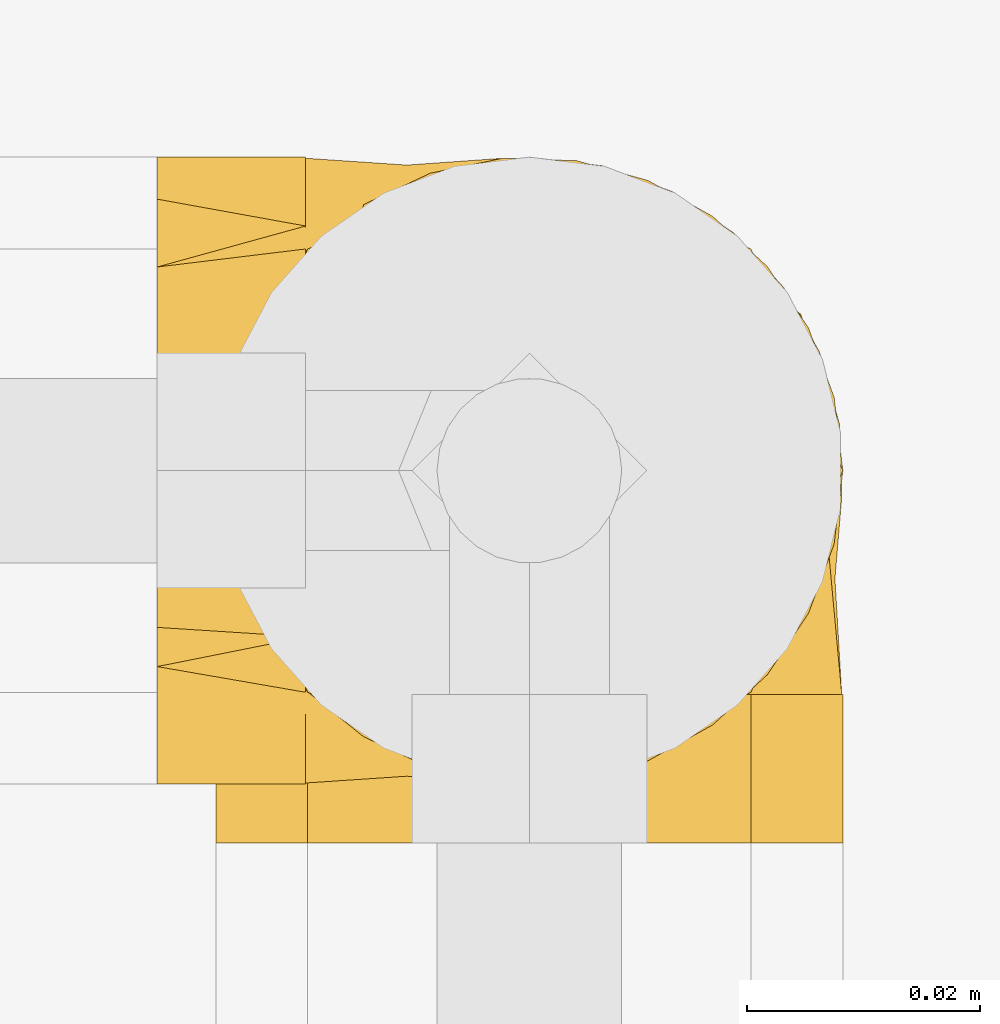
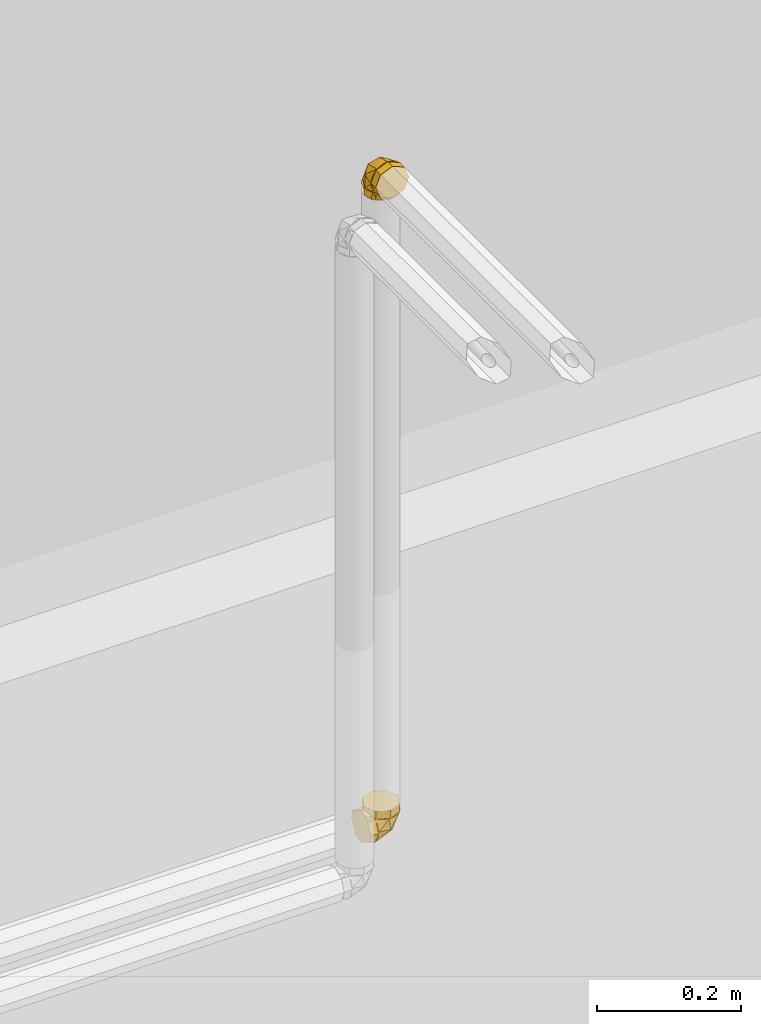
# One storey, part 304 of 652: 2 coverings.
"""IFC2X3 building model written with IfcOpenShell, lengths in millimetres."""

from ifc_helpers import new_model, entity, si_unit, converted_unit, direction, frame, origin, place, context, subcontext, project, spatial, face_set, surface_model, material, type_object, element, save


model = new_model("IFC2X3")

# Units and contexts
model_context = context("Model", 3, precision=0.01, world=frame((0.0, 0.0, 308426.39999999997)), true_north=direction((6.123233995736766e-17, 1.0)))
plan_context = context("Plan", 3, precision=0.01, world=frame((0.0, 0.0, 308426.39999999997)), true_north=direction((6.123233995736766e-17, 1.0)))
body_context = subcontext(model_context, "Body", "Model", "MODEL_VIEW")
ifc_project = project(units=[si_unit("LENGTHUNIT", "METRE", prefix="MILLI"), si_unit("AREAUNIT", "SQUARE_METRE"), si_unit("VOLUMEUNIT", "CUBIC_METRE"), converted_unit("PLANEANGLEUNIT", "DEGREE", entity("IfcPlaneAngleMeasure", 0.017453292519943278), si_unit("PLANEANGLEUNIT", "RADIAN"), dimensions=[0, 0, 0, 0, 0, 0, 0])], contexts=[model_context, plan_context])

# Site, building, storey
site_placement = place(None, origin())
site = spatial("IfcSite", under=ifc_project, at=site_placement, Name="Default", CompositionType="ELEMENT")
building_placement = place(site_placement, origin())
building = spatial("IfcBuilding", under=site, at=building_placement, CompositionType="ELEMENT")
storey_placement = place(building_placement, frame((0.0, 0.0, 1730.6999999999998)))
storey = spatial("IfcBuildingStorey", under=building, at=storey_placement, Name="EG_Produktion_FFB", CompositionType="ELEMENT", Elevation=1730.6999999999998)

# Coverings
ifc_material = material(Name="Dämmung - Armaflex-Schlauch")
covering_type = type_object("IfcCoveringType", Name="Rohrdämmung außen:Armaflex-Schlauch", PredefinedType="INSULATION")
covering_1_placement = place(storey_placement, frame((24486.07571004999, 50390.05280774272, 3828.5327722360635)))
element("IfcCovering", 1, at=covering_1_placement, inside=storey, type_object=covering_type, material=ifc_material, Name="Rohrdämmung außen:Armaflex-Schlauch", ObjectType="Rohrdämmung außen:Armaflex-Schlauch", PredefinedType="INSULATION", context=body_context, shape_type="SurfaceModel", body=[
    surface_model("IfcFaceBasedSurfaceModel", [(47.40912251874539, 12.766250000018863, -47.75027223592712), (51.38658262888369, 12.766250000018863, -42.79223424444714), (54.0915642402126, 12.766250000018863, -37.040242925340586), (55.37345654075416, 12.766250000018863, -30.814563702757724), (55.16088498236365, 12.766250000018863, -24.461836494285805), (53.46568534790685, 12.766250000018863, -18.335775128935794), (50.38224474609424, 12.766250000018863, -12.77747289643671), (46.08224622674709, 12.766250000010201, -8.096410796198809), (40.80510963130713, 12.766250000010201, -4.553225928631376), (34.84466092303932, 12.766250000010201, -2.3451994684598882), (28.532772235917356, 12.766250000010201, -1.595272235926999), (22.220883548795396, 12.766250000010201, -2.3451994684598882), (16.26043484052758, 12.766250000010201, -4.553225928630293), (10.983298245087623, 12.766250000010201, -8.096410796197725), (6.683299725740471, 12.766250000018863, -12.77747289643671), (3.5998591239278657, 12.766250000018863, -18.33577512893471), (1.9046594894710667, 12.766250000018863, -24.461836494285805), (1.6920879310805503, 12.766250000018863, -30.814563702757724), (2.973980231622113, 12.766250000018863, -37.040242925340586), (5.678961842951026, 12.766250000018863, -42.79223424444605), (9.65642195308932, 12.766250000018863, -47.75027223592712), (5.678961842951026, 17.72428799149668, -47.75027223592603), (2.973980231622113, 23.47627931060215, -47.75027223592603), (1.6920879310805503, 29.70195853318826, -47.75027223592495), (1.9046594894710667, 36.05468574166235, -47.75027223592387), (3.5998591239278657, 42.18074710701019, -47.75027223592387), (6.683299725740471, 47.73904933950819, -47.750272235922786), (10.983298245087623, 52.42011143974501, -47.750272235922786), (16.26043484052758, 55.96329630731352, -47.750272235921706), (22.220883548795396, 58.17132276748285, -47.750272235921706), (28.532772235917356, 58.921250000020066, -47.750272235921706), (34.84466092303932, 58.17132276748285, -47.750272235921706), (40.80510963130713, 55.96329630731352, -47.750272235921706), (46.08224622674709, 52.42011143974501, -47.750272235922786), (50.38224474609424, 47.73904933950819, -47.750272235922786), (53.46568534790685, 42.18074710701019, -47.75027223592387), (55.16088498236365, 36.05468574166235, -47.75027223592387), (55.37345654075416, 29.70195853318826, -47.75027223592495), (54.0915642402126, 23.47627931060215, -47.75027223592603), (51.38658262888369, 17.72428799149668, -47.75027223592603), (54.7891337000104, 22.707263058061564, -39.069716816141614), (28.53259683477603, 35.845995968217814, -7.778603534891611), (50.728916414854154, 12.768334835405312, -19.45521638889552), (53.465958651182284, 33.567065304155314, -26.951270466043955), (42.78056436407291, 43.18508288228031, -18.67503145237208), (28.53259683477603, 48.37546374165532, -29.486580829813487), (50.728916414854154, 41.05963122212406, -47.75000093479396), (14.284629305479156, 43.18508288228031, -18.67503145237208), (3.5992350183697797, 33.567065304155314, -26.951270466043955), (2.2760599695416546, 22.707263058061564, -39.069716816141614), (6.33860269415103, 41.05963122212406, -47.75000093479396), (6.33860269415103, 12.768334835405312, -19.45521638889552), (28.532772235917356, 0.0, -1.5952722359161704), (23.770850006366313, 0.0, -3.567725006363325), (19.008927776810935, 0.0, -5.540177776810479), (14.24700554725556, 0.0, -7.51263054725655), (9.485083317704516, 0.0, -9.485083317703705), (7.512630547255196, 0.0, -14.247005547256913), (5.540177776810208, 0.0, -19.008927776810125), (3.5677250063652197, 0.0, -23.770850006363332), (1.5952722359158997, 0.0, -28.532772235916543), (3.5677250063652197, 0.0, -33.29469446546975), (5.540177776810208, 0.0, -38.05661669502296), (7.512630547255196, 0.0, -42.818538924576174), (9.485083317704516, 0.0, -47.58046115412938), (14.24700554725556, 0.0, -49.552913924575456), (19.008927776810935, 0.0, -51.52536669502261), (23.770850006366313, 0.0, -53.49781946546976), (28.532772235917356, 0.0, -55.470272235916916), (33.2946944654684, 0.0, -53.49781946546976), (38.05661669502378, 0.0, -51.52536669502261), (42.81853892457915, 0.0, -49.552913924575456), (47.5804611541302, 0.0, -47.58046115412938), (49.552913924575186, 0.0, -42.818538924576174), (51.5253666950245, 0.0, -38.05661669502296), (53.497819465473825, 0.0, -33.29469446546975), (55.47027223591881, 0.0, -28.532772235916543), (53.49781946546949, 0.0, -23.770850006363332), (51.5253666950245, 0.0, -19.008927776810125), (49.552913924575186, 0.0, -14.247005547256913), (47.5804611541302, 0.0, -9.485083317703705), (42.81853892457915, 0.0, -7.51263054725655), (38.05661669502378, 0.0, -5.540177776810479), (33.29469446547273, 0.0, -3.567725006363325), (28.532772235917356, 12.766250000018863, -1.5952722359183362), (33.2946944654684, 12.766250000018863, -3.567725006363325), (38.05661669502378, 12.766250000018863, -5.540177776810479), (42.81853892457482, 12.766250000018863, -7.512630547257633), (47.5804611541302, 12.766250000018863, -9.48508331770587), (49.96980627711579, 12.766250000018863, -15.25347271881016), (52.359151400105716, 12.766250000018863, -21.021862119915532), (55.47027223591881, 12.766250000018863, -28.53277223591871), (53.49781946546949, 12.766250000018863, -33.29469446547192), (51.5253666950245, 12.766250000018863, -38.05661669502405), (49.552913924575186, 12.766250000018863, -42.818538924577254), (47.5804611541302, 12.766250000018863, -47.58046115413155), (41.81207175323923, 12.766250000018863, -49.96980627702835), (36.04368235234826, 12.766250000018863, -52.35915139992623), (28.532772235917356, 12.766250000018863, -55.47027223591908), (23.770850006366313, 12.766250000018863, -53.49781946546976), (19.008927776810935, 12.766250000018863, -51.52536669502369), (14.247005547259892, 12.766250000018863, -49.552913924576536), (9.485083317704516, 12.766250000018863, -47.58046115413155), (7.095738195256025, 12.766250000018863, -41.81207175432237), (4.706393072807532, 12.766250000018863, -36.04368235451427), (1.5952722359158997, 12.766250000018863, -28.53277223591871), (3.5677250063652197, 12.766250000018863, -23.7708500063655), (5.540177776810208, 12.766250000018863, -19.008927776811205), (7.512630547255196, 12.766250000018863, -14.247005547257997), (9.485083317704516, 12.766250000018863, -9.48508331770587), (15.253472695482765, 12.766250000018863, -7.095738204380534), (21.021862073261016, 12.766250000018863, -4.7063930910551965), (28.532772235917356, 58.92125000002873, -60.51652223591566), (34.36491206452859, 55.55406250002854, -60.51652223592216), (40.197051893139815, 52.186875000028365, -60.51652223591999), (46.02919172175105, 48.81968750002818, -60.516522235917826), (51.86133155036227, 45.452500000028, -60.51652223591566), (53.66580189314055, 38.718125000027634, -60.51652223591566), (55.47027223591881, 31.98375000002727, -60.51652223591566), (52.10308473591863, 26.151610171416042, -60.51652223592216), (48.73589723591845, 20.319470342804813, -60.51652223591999), (45.368709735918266, 14.487330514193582, -60.516522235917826), (42.00152223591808, 8.655190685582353, -60.51652223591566), (35.26714723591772, 6.850720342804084, -60.51652223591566), (28.532772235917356, 5.046250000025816, -60.51652223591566), (22.700632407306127, 8.413437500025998, -60.51652223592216), (16.868492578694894, 11.78062500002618, -60.51652223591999), (11.036352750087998, 15.147812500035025, -60.516522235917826), (5.204212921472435, 18.515000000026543, -60.51652223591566), (3.3997425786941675, 25.24937500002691, -60.51652223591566), (1.5952722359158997, 31.98375000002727, -60.51652223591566), (4.962459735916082, 37.815889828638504, -60.51652223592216), (8.329647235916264, 43.64802965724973, -60.51652223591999), (11.696834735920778, 49.48016948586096, -60.516522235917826), (15.064022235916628, 55.312309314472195, -60.51652223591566), (21.79839723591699, 57.11677965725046, -60.51652223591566), (28.532772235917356, 58.92125000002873, -47.75027223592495), (23.770850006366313, 56.94879722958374, -47.75027223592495), (19.008927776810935, 54.97634445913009, -47.75027223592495), (14.24700554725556, 53.0038916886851, -47.75027223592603), (9.485083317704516, 51.03143891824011, -47.75027223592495), (7.512630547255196, 46.26951668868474, -47.75027223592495), (5.540177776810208, 41.50759445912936, -47.75027223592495), (3.5677250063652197, 36.745672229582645, -47.75027223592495), (1.5952722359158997, 31.98375000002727, -47.75027223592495), (3.5677250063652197, 27.221827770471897, -47.75027223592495), (5.540177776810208, 22.459905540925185, -47.75027223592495), (7.512630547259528, 17.697983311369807, -47.75027223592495), (9.485083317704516, 12.936061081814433, -47.75027223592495), (14.24700554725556, 10.963608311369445, -47.75027223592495), (19.008927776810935, 8.991155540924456, -47.75027223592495), (23.770850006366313, 7.018702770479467, -47.75027223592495), (28.532772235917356, 5.046250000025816, -47.75027223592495), (33.2946944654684, 7.018702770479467, -47.75027223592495), (38.05661669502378, 8.991155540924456, -47.75027223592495), (42.81853892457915, 10.963608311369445, -47.75027223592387), (47.5804611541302, 12.936061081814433, -47.75027223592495), (49.552913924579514, 17.697983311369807, -47.75027223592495), (51.5253666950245, 22.459905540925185, -47.75027223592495), (53.49781946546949, 27.22182777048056, -47.75027223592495), (55.47027223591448, 31.98375000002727, -47.75027223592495), (53.49781946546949, 36.745672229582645, -47.75027223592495), (51.5253666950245, 41.50759445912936, -47.75027223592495), (49.552913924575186, 46.26951668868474, -47.75027223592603), (47.5804611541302, 51.03143891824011, -47.75027223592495), (42.81853892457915, 53.0038916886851, -47.75027223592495), (38.05661669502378, 54.97634445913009, -47.75027223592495), (33.2946944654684, 56.94879722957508, -47.75027223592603)], [face_set([[[0, 1, 2, 3, 4, 5, 6, 7, 8, 9, 10, 11, 12, 13, 14, 15, 16, 17, 18, 19]], [[20, 21, 22, 23, 24, 25, 26, 27, 28, 29, 30, 31, 32, 33, 34, 35, 36, 37, 38, 39]], [[0, 40, 3]], [[10, 7, 41]], [[42, 3, 43]], [[40, 43, 3]], [[37, 40, 0]], [[7, 43, 44]], [[45, 41, 44]], [[7, 44, 41]], [[33, 30, 45]], [[45, 44, 33]], [[43, 33, 44]], [[43, 37, 46]], [[43, 7, 42]], [[37, 43, 40]], [[46, 33, 43]], [[13, 10, 41]], [[27, 47, 45]], [[45, 30, 27]], [[48, 47, 27]], [[49, 48, 23]], [[48, 50, 23]], [[45, 47, 41]], [[20, 49, 23]], [[47, 48, 13]], [[17, 49, 20]], [[41, 47, 13]], [[48, 17, 51]], [[48, 27, 50]], [[17, 48, 49]], [[51, 13, 48]]]), face_set([[[52, 53, 54, 55, 56, 57, 58, 59, 60, 61, 62, 63, 64, 65, 66, 67, 68, 69, 70, 71, 72, 73, 74, 75, 76, 77, 78, 79, 80, 81, 82, 83]], [[84, 85, 86, 87, 88, 89, 90, 91, 92, 93, 94, 95, 96, 97, 98, 99, 100, 101, 102, 103, 104, 105, 106, 107, 108, 109, 110, 111]], [[111, 110, 109, 56, 55, 54, 53, 52, 84]], [[56, 109, 108, 107, 106, 105, 60, 59, 58, 57]], [[104, 103, 102, 64, 63, 62, 61, 60, 105]], [[64, 102, 101, 100, 99, 98, 68, 67, 66, 65]], [[97, 96, 95, 72, 71, 70, 69, 68, 98]], [[72, 95, 94, 93, 92, 91, 76, 75, 74, 73]], [[90, 89, 88, 80, 79, 78, 77, 76, 91]], [[80, 88, 87, 86, 85, 84, 52, 83, 82, 81]]]), face_set([[[112, 113, 114, 115, 116, 117, 118, 119, 120, 121, 122, 123, 124, 125, 126, 127, 128, 129, 130, 131, 132, 133, 134, 135]], [[136, 137, 138, 139, 140, 141, 142, 143, 144, 145, 146, 147, 148, 149, 150, 151, 152, 153, 154, 155, 156, 157, 158, 159, 160, 161, 162, 163, 164, 165, 166, 167]], [[155, 121, 156]], [[118, 159, 119]], [[159, 158, 119]], [[123, 154, 153]], [[153, 152, 124]], [[121, 155, 122]], [[120, 158, 157]], [[118, 160, 159]], [[158, 120, 119]], [[124, 123, 153]], [[157, 156, 121]], [[155, 154, 122]], [[123, 122, 154]], [[120, 157, 121]], [[163, 115, 164]], [[112, 167, 113]], [[167, 166, 113]], [[117, 162, 161]], [[161, 160, 118]], [[115, 163, 116]], [[114, 166, 165]], [[112, 136, 167]], [[166, 114, 113]], [[118, 117, 161]], [[165, 164, 115]], [[163, 162, 116]], [[117, 116, 162]], [[114, 165, 115]], [[139, 133, 140]], [[130, 143, 131]], [[143, 142, 131]], [[135, 138, 137]], [[137, 136, 112]], [[133, 139, 134]], [[132, 142, 141]], [[130, 144, 143]], [[142, 132, 131]], [[112, 135, 137]], [[141, 140, 133]], [[139, 138, 134]], [[135, 134, 138]], [[132, 141, 133]], [[147, 127, 148]], [[124, 151, 125]], [[151, 150, 125]], [[129, 146, 145]], [[145, 144, 130]], [[127, 147, 128]], [[126, 150, 149]], [[124, 152, 151]], [[150, 126, 125]], [[130, 129, 145]], [[149, 148, 127]], [[147, 146, 128]], [[129, 128, 146]], [[126, 149, 127]]])]),
])
covering_2_placement = place(storey_placement, frame((24482.6247322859, 50393.50378550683, 2671.4672277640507)))
element("IfcCovering", 2, at=covering_2_placement, inside=storey, type_object=covering_type, material=ifc_material, Name="Rohrdämmung außen:Armaflex-Schlauch", ObjectType="Rohrdämmung außen:Armaflex-Schlauch", PredefinedType="INSULATION", context=body_context, shape_type="SurfaceModel", body=[
    surface_model("IfcFaceBasedSurfaceModel", [(12.766249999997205, 9.65642195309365, 47.750272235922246), (17.724287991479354, 5.678961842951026, 47.750272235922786), (23.476279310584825, 2.973980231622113, 47.750272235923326), (29.701958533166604, 1.6920879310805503, 47.75027223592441), (36.05468574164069, 1.904659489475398, 47.75027223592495), (42.180747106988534, 3.599859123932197, 47.75027223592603), (47.739049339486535, 6.683299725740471, 47.75027223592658), (52.420111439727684, 10.983298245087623, 47.75027223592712), (55.96329630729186, 16.26043484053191, 47.75027223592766), (58.17132276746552, 22.220883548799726, 47.75027223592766), (58.92124999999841, 28.532772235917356, 47.75027223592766), (58.17132276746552, 34.844660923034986, 47.75027223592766), (55.96329630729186, 40.8051096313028, 47.75027223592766), (52.420111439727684, 46.08224622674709, 47.75027223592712), (47.739049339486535, 50.38224474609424, 47.75027223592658), (42.180747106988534, 53.465685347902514, 47.75027223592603), (36.05468574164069, 55.16088498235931, 47.75027223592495), (29.701958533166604, 55.37345654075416, 47.75027223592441), (23.476279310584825, 54.0915642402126, 47.750272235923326), (17.724287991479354, 51.38658262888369, 47.750272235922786), (12.766249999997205, 47.409122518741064, 47.750272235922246), (12.766249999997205, 51.38658262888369, 42.79223424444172), (12.766249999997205, 54.0915642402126, 37.04024292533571), (12.766249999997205, 55.37345654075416, 30.81456370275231), (12.766250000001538, 55.16088498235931, 24.46183649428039), (12.766250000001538, 53.465685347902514, 18.33577512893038), (12.766250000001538, 50.38224474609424, 12.777472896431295), (12.766250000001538, 46.08224622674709, 8.096410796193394), (12.766250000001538, 40.8051096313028, 4.553225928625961), (12.766250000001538, 34.844660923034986, 2.3451994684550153), (12.766250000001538, 28.532772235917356, 1.5952722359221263), (12.766250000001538, 22.220883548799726, 2.3451994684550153), (12.766250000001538, 16.26043484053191, 4.553225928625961), (12.766250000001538, 10.983298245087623, 8.096410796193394), (12.766250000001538, 6.683299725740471, 12.777472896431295), (12.766250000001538, 3.599859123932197, 18.33577512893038), (12.766250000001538, 1.904659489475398, 24.46183649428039), (12.766249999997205, 1.6920879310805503, 30.81456370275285), (12.766249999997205, 2.973980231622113, 37.04024292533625), (12.766249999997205, 5.678961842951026, 42.79223424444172), (21.447008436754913, 2.275926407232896, 37.80740068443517), (52.73812171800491, 28.534788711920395, 24.672737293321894), (33.56487342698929, 3.6014268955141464, 26.951086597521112), (41.06209022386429, 6.336143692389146, 47.750398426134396), (31.03014442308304, 28.534788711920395, 12.139781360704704), (41.84111244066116, 14.284495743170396, 17.33248765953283), (12.76614295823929, 6.336143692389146, 19.455613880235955), (41.84111244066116, 42.78043080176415, 17.33248765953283), (33.56487342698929, 53.4634996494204, 26.951086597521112), (21.447008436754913, 54.78900013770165, 37.80740068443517), (12.76614295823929, 50.7287828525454, 19.455613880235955), (41.06209022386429, 50.7287828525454, 47.750398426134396), (58.92125000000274, 28.532772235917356, 60.5165222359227), (56.94879722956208, 33.29469446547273, 60.51652223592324), (54.97634445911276, 38.05661669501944, 60.51652223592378), (53.00389168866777, 42.81853892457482, 60.51652223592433), (51.031438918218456, 47.5804611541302, 60.51652223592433), (46.26951668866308, 49.552913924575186, 60.51652223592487), (41.507594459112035, 51.525366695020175, 60.51652223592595), (36.74567222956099, 53.497819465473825, 60.51652223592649), (31.983750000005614, 55.47027223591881, 60.516522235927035), (27.22182777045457, 53.497819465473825, 60.516522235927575), (22.459905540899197, 51.525366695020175, 60.516522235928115), (17.69798331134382, 49.552913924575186, 60.516522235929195), (12.936061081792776, 47.5804611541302, 60.51652223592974), (10.963608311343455, 42.81853892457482, 60.51652223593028), (8.991155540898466, 38.05661669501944, 60.51652223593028), (7.018702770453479, 33.29469446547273, 60.51652223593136), (5.046250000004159, 28.532772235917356, 60.51652223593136), (7.018702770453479, 23.77085000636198, 60.51652223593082), (8.991155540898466, 19.008927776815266, 60.51652223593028), (10.963608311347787, 14.247005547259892, 60.51652223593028), (12.936061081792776, 9.485083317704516, 60.51652223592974), (17.69798331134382, 7.512630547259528, 60.516522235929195), (22.459905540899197, 5.54017777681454, 60.516522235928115), (27.22182777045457, 3.567725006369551, 60.516522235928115), (31.983750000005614, 1.5952722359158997, 60.516522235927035), (36.74567222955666, 3.567725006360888, 60.51652223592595), (41.507594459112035, 5.54017777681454, 60.51652223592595), (46.26951668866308, 7.512630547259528, 60.51652223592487), (51.031438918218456, 9.485083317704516, 60.51652223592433), (53.00389168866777, 14.247005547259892, 60.51652223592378), (54.97634445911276, 19.008927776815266, 60.51652223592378), (56.94879722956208, 23.770850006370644, 60.51652223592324), (58.92125000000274, 28.532772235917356, 47.75027223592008), (56.94879722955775, 23.77085000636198, 47.75027223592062), (54.97634445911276, 19.008927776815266, 47.750272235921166), (53.003891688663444, 14.247005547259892, 47.750272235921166), (51.031438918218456, 9.485083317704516, 47.750272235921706), (45.26304951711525, 7.095738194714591, 47.750272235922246), (39.49466011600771, 4.706393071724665, 47.750272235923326), (31.983750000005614, 1.5952722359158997, 47.75027223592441), (27.22182777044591, 3.567725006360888, 47.75027223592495), (22.459905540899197, 5.54017777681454, 47.75027223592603), (17.69798331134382, 7.512630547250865, 47.75027223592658), (12.936061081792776, 9.485083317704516, 47.75027223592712), (10.546715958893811, 15.253472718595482, 47.75027223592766), (8.157370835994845, 21.021862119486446, 47.75027223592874), (5.046250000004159, 28.532772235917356, 47.75027223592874), (7.018702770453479, 33.29469446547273, 47.7502722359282), (8.991155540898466, 38.05661669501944, 47.7502722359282), (10.963608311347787, 42.81853892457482, 47.7502722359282), (12.936061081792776, 47.5804611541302, 47.75027223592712), (18.704450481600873, 49.96980627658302, 47.75027223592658), (24.472839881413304, 52.359151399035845, 47.75027223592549), (31.983750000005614, 55.47027223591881, 47.75027223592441), (36.74567222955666, 53.497819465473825, 47.75027223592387), (41.507594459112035, 51.525366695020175, 47.750272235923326), (46.26951668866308, 49.552913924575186, 47.750272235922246), (51.031438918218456, 47.5804611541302, 47.750272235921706), (53.420784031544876, 41.81207177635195, 47.750272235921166), (55.81012914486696, 36.0436823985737, 47.750272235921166), (0.0, 28.532772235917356, 1.5952722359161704), (0.0, 22.700632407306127, 4.962459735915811), (0.0, 16.868492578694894, 8.329647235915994), (0.0, 11.036352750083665, 11.696834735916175), (0.0, 5.204212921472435, 15.064022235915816), (0.0, 3.3997425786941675, 21.798397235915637), (0.0, 1.5952722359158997, 28.532772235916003), (0.0, 4.962459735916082, 34.36491206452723), (0.0, 8.329647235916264, 40.19705189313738), (0.0, 11.696834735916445, 46.02919172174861), (0.0, 15.064022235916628, 51.861331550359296), (0.0, 21.79839723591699, 53.66580189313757), (0.0, 28.532772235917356, 55.470272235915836), (0.0, 34.36491206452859, 52.10308473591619), (0.0, 40.197051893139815, 48.73589723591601), (0.0, 46.02919172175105, 45.36870973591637), (0.0, 51.86133155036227, 42.00152223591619), (0.0, 53.66580189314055, 35.26714723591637), (0.0, 55.47027223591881, 28.532772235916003), (0.0, 52.10308473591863, 22.700632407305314), (0.0, 48.73589723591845, 16.868492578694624), (0.0, 45.36870973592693, 11.036352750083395), (0.0, 42.00152223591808, 5.204212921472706), (0.0, 35.26714723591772, 3.3997425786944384), (12.766249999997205, 28.532772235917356, 1.5952722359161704), (12.766249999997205, 33.29469446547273, 3.567725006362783), (12.766249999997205, 38.05661669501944, 5.540177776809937), (12.766249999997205, 42.81853892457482, 7.512630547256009), (12.766249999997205, 47.5804611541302, 9.485083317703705), (12.766249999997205, 49.552913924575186, 14.247005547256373), (12.766249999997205, 51.525366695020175, 19.008927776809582), (12.766249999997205, 53.497819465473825, 23.770850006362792), (12.766249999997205, 55.47027223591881, 28.532772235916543), (12.766249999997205, 53.497819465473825, 33.29469446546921), (12.766249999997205, 51.525366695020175, 38.05661669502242), (12.766249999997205, 49.552913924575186, 42.818538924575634), (12.766249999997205, 47.5804611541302, 47.58046115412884), (12.766249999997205, 42.81853892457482, 49.552913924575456), (12.766249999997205, 38.05661669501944, 51.525366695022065), (12.766249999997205, 33.29469446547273, 53.49781946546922), (12.766249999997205, 28.532772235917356, 55.470272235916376), (12.766249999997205, 23.770850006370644, 53.49781946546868), (12.766249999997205, 19.008927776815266, 51.525366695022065), (12.766249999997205, 14.247005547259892, 49.552913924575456), (12.766249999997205, 9.485083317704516, 47.58046115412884), (12.766249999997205, 7.512630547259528, 42.818538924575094), (12.766249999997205, 5.54017777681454, 38.05661669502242), (12.766249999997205, 3.567725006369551, 33.29469446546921), (12.766249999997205, 1.5952722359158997, 28.532772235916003), (12.766249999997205, 3.567725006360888, 23.770850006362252), (12.766249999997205, 5.54017777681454, 19.008927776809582), (12.766249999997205, 7.512630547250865, 14.247005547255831), (12.766249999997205, 9.485083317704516, 9.485083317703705), (12.766249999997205, 14.247005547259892, 7.512630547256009), (12.766249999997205, 19.008927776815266, 5.540177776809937), (12.766249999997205, 23.77085000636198, 3.5677250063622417)], [face_set([[[0, 1, 2, 3, 4, 5, 6, 7, 8, 9, 10, 11, 12, 13, 14, 15, 16, 17, 18, 19]], [[20, 21, 22, 23, 24, 25, 26, 27, 28, 29, 30, 31, 32, 33, 34, 35, 36, 37, 38, 39]], [[0, 40, 3]], [[10, 7, 41]], [[37, 42, 40]], [[42, 7, 43]], [[37, 40, 0]], [[3, 40, 42]], [[44, 41, 45]], [[7, 45, 41]], [[33, 30, 44]], [[44, 45, 33]], [[42, 33, 45]], [[42, 37, 46]], [[7, 42, 45]], [[43, 3, 42]], [[46, 33, 42]], [[13, 10, 41]], [[27, 47, 44]], [[44, 30, 27]], [[48, 47, 27]], [[49, 48, 23]], [[48, 50, 23]], [[44, 47, 41]], [[20, 49, 23]], [[47, 48, 13]], [[17, 49, 20]], [[41, 47, 13]], [[48, 17, 51]], [[48, 27, 50]], [[17, 48, 49]], [[51, 13, 48]]]), face_set([[[52, 53, 54, 55, 56, 57, 58, 59, 60, 61, 62, 63, 64, 65, 66, 67, 68, 69, 70, 71, 72, 73, 74, 75, 76, 77, 78, 79, 80, 81, 82, 83]], [[84, 85, 86, 87, 88, 89, 90, 91, 92, 93, 94, 95, 96, 97, 98, 99, 100, 101, 102, 103, 104, 105, 106, 107, 108, 109, 110, 111]], [[111, 110, 109, 56, 55, 54, 53, 52, 84]], [[56, 109, 108, 107, 106, 105, 60, 59, 58, 57]], [[104, 103, 102, 64, 63, 62, 61, 60, 105]], [[64, 102, 101, 100, 99, 98, 68, 67, 66, 65]], [[97, 96, 95, 72, 71, 70, 69, 68, 98]], [[72, 95, 94, 93, 92, 91, 76, 75, 74, 73]], [[90, 89, 88, 80, 79, 78, 77, 76, 91]], [[80, 88, 87, 86, 85, 84, 52, 83, 82, 81]]]), face_set([[[112, 113, 114, 115, 116, 117, 118, 119, 120, 121, 122, 123, 124, 125, 126, 127, 128, 129, 130, 131, 132, 133, 134, 135]], [[136, 137, 138, 139, 140, 141, 142, 143, 144, 145, 146, 147, 148, 149, 150, 151, 152, 153, 154, 155, 156, 157, 158, 159, 160, 161, 162, 163, 164, 165, 166, 167]], [[155, 121, 156]], [[118, 159, 119]], [[159, 158, 119]], [[123, 154, 153]], [[153, 152, 124]], [[121, 155, 122]], [[120, 158, 157]], [[118, 160, 159]], [[158, 120, 119]], [[124, 123, 153]], [[157, 156, 121]], [[155, 154, 122]], [[123, 122, 154]], [[120, 157, 121]], [[163, 115, 164]], [[112, 167, 113]], [[167, 166, 113]], [[117, 162, 161]], [[161, 160, 118]], [[115, 163, 116]], [[114, 166, 165]], [[112, 136, 167]], [[166, 114, 113]], [[118, 117, 161]], [[165, 164, 115]], [[163, 162, 116]], [[117, 116, 162]], [[114, 165, 115]], [[139, 133, 140]], [[130, 143, 131]], [[143, 142, 131]], [[135, 138, 137]], [[137, 136, 112]], [[133, 139, 134]], [[132, 142, 141]], [[130, 144, 143]], [[142, 132, 131]], [[112, 135, 137]], [[141, 140, 133]], [[139, 138, 134]], [[135, 134, 138]], [[132, 141, 133]], [[147, 127, 148]], [[124, 151, 125]], [[151, 150, 125]], [[129, 146, 145]], [[145, 144, 130]], [[127, 147, 128]], [[126, 150, 149]], [[124, 152, 151]], [[150, 126, 125]], [[130, 129, 145]], [[149, 148, 127]], [[147, 146, 128]], [[129, 128, 146]], [[126, 149, 127]]])]),
])

save(model, "model.ifc")
